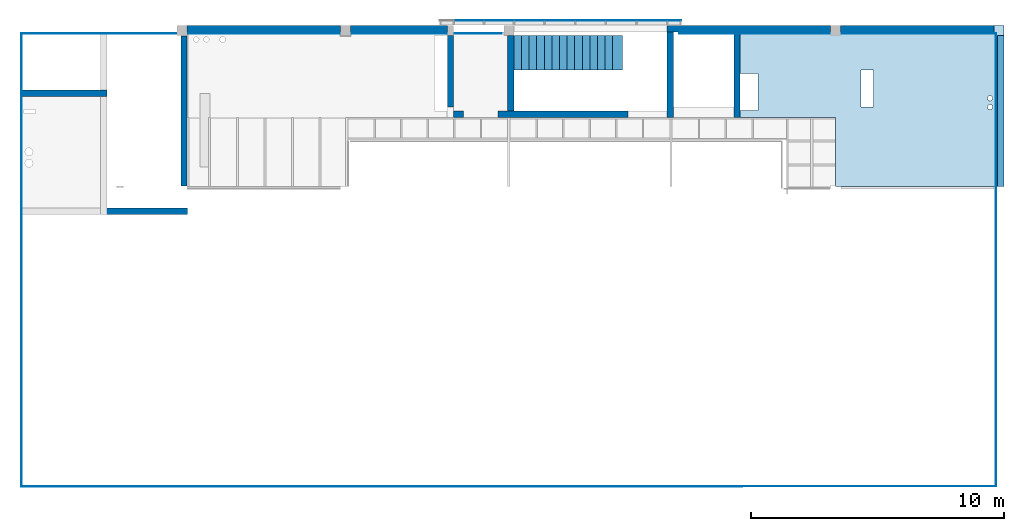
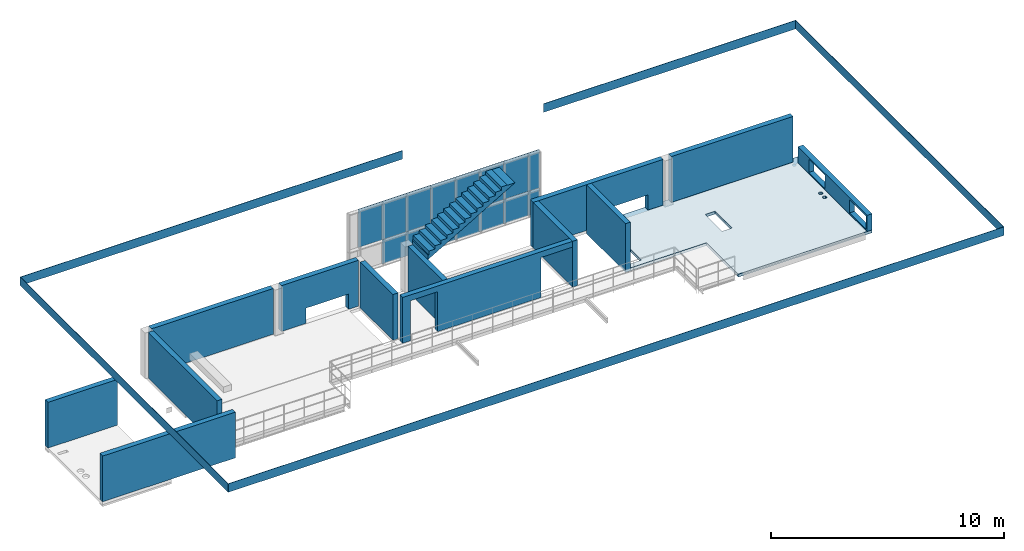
# One storey, part 6 of 8: 18 walls, 15 plates, 1 slab, 1 stair, 10 openings, 2 elements without a shape of their own.
"""IFC2X3 building model written with IfcOpenShell, lengths in centimetres."""

from ifc_helpers import new_model, entity, si_unit, converted_unit, derived_unit, direction, frame, frame_2d, origin, origin_2d_with_axis, place, context, subcontext, project, spatial, polyline, rectangle, circle, outline, extrude, source, transform, mapped, material, layer, layer_set, layer_usage, type_object, type_shapes, element, aggregate, save


model = new_model("IFC2X3")

# Units and contexts
model_context = context("Model", 3, precision=0.001, world=origin(), true_north=direction((6.12303176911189e-17, 1.0)))
body_context = subcontext(model_context, "Body", "Model", "MODEL_VIEW")
ifc_project = project(units=[si_unit("LENGTHUNIT", "METRE", prefix="CENTI"), si_unit("AREAUNIT", "SQUARE_METRE"), si_unit("VOLUMEUNIT", "CUBIC_METRE"), converted_unit("PLANEANGLEUNIT", "DEGREE", entity("IfcRatioMeasure", 0.0174532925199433), si_unit("PLANEANGLEUNIT", "RADIAN"), dimensions=[0, 0, 0, 0, 0, 0, 0]), si_unit("MASSUNIT", "GRAM", prefix="KILO"), derived_unit("MASSDENSITYUNIT", [(si_unit("MASSUNIT", "GRAM", prefix="KILO"), 1), (si_unit("LENGTHUNIT", "METRE"), -3)]), derived_unit("MOMENTOFINERTIAUNIT", [(si_unit("LENGTHUNIT", "METRE"), 4)]), si_unit("TIMEUNIT", "SECOND"), si_unit("FREQUENCYUNIT", "HERTZ"), si_unit("THERMODYNAMICTEMPERATUREUNIT", "DEGREE_CELSIUS"), derived_unit("THERMALTRANSMITTANCEUNIT", [(si_unit("MASSUNIT", "GRAM", prefix="KILO"), 1), (si_unit("THERMODYNAMICTEMPERATUREUNIT", "KELVIN"), -1), (si_unit("TIMEUNIT", "SECOND"), -3)]), derived_unit("VOLUMETRICFLOWRATEUNIT", [(si_unit("LENGTHUNIT", "METRE"), 3), (si_unit("TIMEUNIT", "SECOND"), -1)]), si_unit("ELECTRICCURRENTUNIT", "AMPERE"), si_unit("ELECTRICVOLTAGEUNIT", "VOLT"), si_unit("POWERUNIT", "WATT"), si_unit("FORCEUNIT", "NEWTON", prefix="KILO"), si_unit("ILLUMINANCEUNIT", "LUX"), si_unit("LUMINOUSFLUXUNIT", "LUMEN"), si_unit("LUMINOUSINTENSITYUNIT", "CANDELA"), derived_unit("USERDEFINED", [(si_unit("MASSUNIT", "GRAM", prefix="KILO"), -1), (si_unit("LENGTHUNIT", "METRE"), -2), (si_unit("TIMEUNIT", "SECOND"), 3), (si_unit("LUMINOUSFLUXUNIT", "LUMEN"), 1)]), derived_unit("LINEARVELOCITYUNIT", [(si_unit("LENGTHUNIT", "METRE"), 1), (si_unit("TIMEUNIT", "SECOND"), -1)]), si_unit("PRESSUREUNIT", "PASCAL"), derived_unit("USERDEFINED", [(si_unit("LENGTHUNIT", "METRE"), -2), (si_unit("MASSUNIT", "GRAM", prefix="KILO"), 1), (si_unit("TIMEUNIT", "SECOND"), -2)]), derived_unit("LINEARFORCEUNIT", [(si_unit("MASSUNIT", "GRAM", prefix="KILO"), 1), (si_unit("LENGTHUNIT", "METRE"), 1), (si_unit("TIMEUNIT", "SECOND"), -2), (si_unit("LENGTHUNIT", "METRE"), -1)]), derived_unit("PLANARFORCEUNIT", [(si_unit("MASSUNIT", "GRAM", prefix="KILO"), 1), (si_unit("LENGTHUNIT", "METRE"), 1), (si_unit("TIMEUNIT", "SECOND"), -2), (si_unit("LENGTHUNIT", "METRE"), -2)])], contexts=[model_context])

# Site, building, storey
site_placement = place(None, origin())
site = spatial("IfcSite", under=ifc_project, at=site_placement, Name="Default", CompositionType="ELEMENT")
building_placement = place(site_placement, origin())
building = spatial("IfcBuilding", under=site, at=building_placement, CompositionType="ELEMENT")
storey_placement = place(building_placement, frame((0.0, 0.0, 290.0)))
storey = spatial("IfcBuildingStorey", under=building, at=storey_placement, Name="Poziom Antresola +2,90", CompositionType="ELEMENT", Elevation=290.0)

# Slab, openings
ifc_material_1 = material(Name="_Beton, C25/30")
ifc_layer_1 = layer(ifc_material_1, 15.0)
ifc_layer_set_1 = layer_set([ifc_layer_1], Name="Strop:Strop żebetowy gr. 15cm")
ifc_layer_usage_1 = layer_usage(ifc_layer_set_1, "AXIS3", "POSITIVE", 0.0)
slab_type = type_object("IfcSlabType", Name="Strop:Strop żebetowy gr. 15cm", PredefinedType="FLOOR", material=ifc_layer_set_1)
slab_placement = place(storey_placement, frame((-65.7649889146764, 1470.12745194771, -15.0)))
slab = element("IfcSlab", 1, at=slab_placement, inside=storey, type_object=slab_type, material=ifc_layer_usage_1, Name="Strop:Strop żebetowy gr. 15cm", ObjectType="Strop:Strop żebetowy gr. 15cm", PredefinedType="FLOOR", context=body_context, shape_type="SweptSolid", body=[
    extrude(outline(polyline([(520.749941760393, 317.500000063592), (-520.749941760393, 317.500000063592), (-520.749941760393, -317.500000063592), (144.250061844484, -317.50000006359), (144.250061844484, -44.500000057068), (520.749941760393, -44.5000000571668), (520.749941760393, -17.5002920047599), (450.750060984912, -17.5002920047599), (450.750060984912, 127.500000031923), (520.749941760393, 127.500000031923), (520.749941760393, 317.500000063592)])), frame((520.749941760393, 317.500000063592, 15.0), z_axis=(0.0, 0.0, -1.0), x_axis=(-1.0, 0.0, 0.0)), (0.0, 0.0, 1.0), 15.0),
])
opening_1_placement = place(slab_placement, frame((501.999855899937, 386.282516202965, 15.0)))
element("IfcOpeningElement", 2, at=opening_1_placement, cuts=slab, Name="Strop:Strop żebetowy gr. 15cm:2", ObjectType="Opening", context=body_context, shape_type="SweptSolid", body=[
    extrude(rectangle(XDim=145.43555127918, YDim=50.0000240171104, at=origin_2d_with_axis()), frame((0.0, 0.0, 0.0), z_axis=(0.0, 0.0, -1.0), x_axis=(0.0, -1.0, 0.0)), (0.0, 0.0, 1.0), 15.0),
])
opening_2_placement = place(slab_placement, frame((986.499719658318, 347.999997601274, 15.0)))
element("IfcOpeningElement", 3, at=opening_2_placement, cuts=slab, Name="Strop:Strop żebetowy gr. 15cm:3", ObjectType="Opening", context=body_context, shape_type="SweptSolid", body=[
    extrude(circle(Radius=9.99999999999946, at=origin_2d_with_axis()), frame((0.0, 0.0, 0.0), z_axis=(0.0, 0.0, -1.0), x_axis=(1.0, 0.0, 0.0)), (0.0, 0.0, 1.0), 15.0),
])
opening_3_placement = place(slab_placement, frame((986.499719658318, 312.999997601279, 15.0)))
element("IfcOpeningElement", 4, at=opening_3_placement, cuts=slab, Name="Strop:Strop żebetowy gr. 15cm:4", ObjectType="Opening", context=body_context, shape_type="SweptSolid", body=[
    extrude(circle(Radius=9.99999999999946, at=origin_2d_with_axis()), frame((0.0, 0.0, 0.0), z_axis=(0.0, 0.0, -1.0), x_axis=(1.0, 0.0, 0.0)), (0.0, 0.0, 1.0), 15.0),
])

# Curtain wall, plates
curtain_wall_type = type_object("IfcCurtainWallType", Name="Ściana osłonowa:SO2", PredefinedType="NOTDEFINED")
curtain_wall_placement = place(storey_placement, frame((0.0, 0.0, -290.0)))
curtain_wall = element("IfcCurtainWall", 5, at=curtain_wall_placement, inside=storey, type_object=curtain_wall_type, Name="Ściana osłonowa:SO2", ObjectType="Ściana osłonowa:SO2")
ifc_material_2 = material(Name="Domyślny")
plate_type_1 = type_object("IfcPlateType", Name="Panel systemowy:Bryła", PredefinedType="CURTAIN_PANEL", material=ifc_material_2)
shared_shape_1 = source(origin(), body_context, "Body", "SweptSolid", [
    extrude(rectangle(XDim=2.0, YDim=56.0, at=frame_2d((-8.88178419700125e-16, 0.0), x_axis=(1.0, 0.0))), frame((0.0, 9.75, 0.0), z_axis=(0.0, 0.0, 1.0), x_axis=(0.0, 1.0, 0.0)), (0.0, 0.0, 1.0), 127.5),
])
type_shapes(plate_type_1, [shared_shape_1])
plate_1_placement = place(curtain_wall_placement, frame((-326.265132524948, 2116.37745208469, 432.499988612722)))
plate_1 = element("IfcPlate", 6, at=plate_1_placement, type_object=plate_type_1, material=ifc_material_2, Name="Panel systemowy:Bryła", ObjectType="Panel systemowy:Bryła", context=body_context, shape_type="MappedRepresentation", body=[
    mapped(shared_shape_1, transform((0.0, 0.0, 0.0), scale=1.0)),
])
ifc_material_3 = material(Name="Szkło")
plate_type_2 = type_object("IfcPlateType", Name="Panel systemowy:Przeszklony - System strukturalny", PredefinedType="CURTAIN_PANEL", material=ifc_material_3)
shared_shape_2 = source(origin(), body_context, "Body", "SweptSolid", [
    extrude(rectangle(XDim=2.0, YDim=118.499982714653, at=frame_2d((-8.88178419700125e-16, 0.0), x_axis=(1.0, 0.0))), frame((0.0, 9.75, 0.0), z_axis=(0.0, 0.0, 1.0), x_axis=(0.0, 1.0, 0.0)), (0.0, 0.0, 1.0), 127.5),
])
type_shapes(plate_type_2, [shared_shape_2])
plate_2_placement = place(curtain_wall_placement, frame((-1018.51512388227, 2116.37745208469, 432.499988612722)))
plate_2 = element("IfcPlate", 7, at=plate_2_placement, type_object=plate_type_2, material=ifc_material_3, Name="Panel systemowy:Przeszklony - System strukturalny", ObjectType="Panel systemowy:Przeszklony - System strukturalny", context=body_context, shape_type="MappedRepresentation", body=[
    mapped(shared_shape_2, transform((0.0, 0.0, 0.0), scale=1.0)),
])
plate_type_3 = type_object("IfcPlateType", Name="Panel systemowy:Przeszklony - System strukturalny", PredefinedType="CURTAIN_PANEL", material=ifc_material_3)
shared_shape_3 = source(origin(), body_context, "Body", "SweptSolid", [
    extrude(rectangle(XDim=2.0, YDim=121.0, at=frame_2d((-8.88178419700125e-16, 0.0), x_axis=(1.0, 0.0))), frame((0.0, 9.75, 0.0), z_axis=(0.0, 0.0, 1.0), x_axis=(0.0, 1.0, 0.0)), (0.0, 0.0, 1.0), 127.5),
])
type_shapes(plate_type_3, [shared_shape_3])
plate_3_placement = place(curtain_wall_placement, frame((-898.765132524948, 2116.37745208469, 432.499988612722)))
plate_3 = element("IfcPlate", 8, at=plate_3_placement, type_object=plate_type_3, material=ifc_material_3, Name="Panel systemowy:Przeszklony - System strukturalny", ObjectType="Panel systemowy:Przeszklony - System strukturalny", context=body_context, shape_type="MappedRepresentation", body=[
    mapped(shared_shape_3, transform((0.0, 0.0, 0.0), scale=1.0)),
])
plate_4_placement = place(curtain_wall_placement, frame((-777.765132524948, 2116.37745208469, 432.499988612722)))
plate_4 = element("IfcPlate", 9, at=plate_4_placement, type_object=plate_type_3, material=ifc_material_3, Name="Panel systemowy:Przeszklony - System strukturalny", ObjectType="Panel systemowy:Przeszklony - System strukturalny", context=body_context, shape_type="MappedRepresentation", body=[
    mapped(shared_shape_3, transform((0.0, 0.0, 0.0), scale=1.0)),
])
plate_5_placement = place(curtain_wall_placement, frame((-656.765132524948, 2116.37745208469, 432.499988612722)))
plate_5 = element("IfcPlate", 10, at=plate_5_placement, type_object=plate_type_3, material=ifc_material_3, Name="Panel systemowy:Przeszklony - System strukturalny", ObjectType="Panel systemowy:Przeszklony - System strukturalny", context=body_context, shape_type="MappedRepresentation", body=[
    mapped(shared_shape_3, transform((0.0, 0.0, 0.0), scale=1.0)),
])
plate_6_placement = place(curtain_wall_placement, frame((-535.765132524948, 2116.37745208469, 432.499988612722)))
plate_6 = element("IfcPlate", 11, at=plate_6_placement, type_object=plate_type_3, material=ifc_material_3, Name="Panel systemowy:Przeszklony - System strukturalny", ObjectType="Panel systemowy:Przeszklony - System strukturalny", context=body_context, shape_type="MappedRepresentation", body=[
    mapped(shared_shape_3, transform((0.0, 0.0, 0.0), scale=1.0)),
])
plate_7_placement = place(curtain_wall_placement, frame((-414.765132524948, 2116.37745208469, 432.499988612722)))
plate_7 = element("IfcPlate", 12, at=plate_7_placement, type_object=plate_type_3, material=ifc_material_3, Name="Panel systemowy:Przeszklony - System strukturalny", ObjectType="Panel systemowy:Przeszklony - System strukturalny", context=body_context, shape_type="MappedRepresentation", body=[
    mapped(shared_shape_3, transform((0.0, 0.0, 0.0), scale=1.0)),
])
plate_type_4 = type_object("IfcPlateType", Name="Panel systemowy:Bryła", PredefinedType="CURTAIN_PANEL", material=ifc_material_2)
shared_shape_4 = source(origin(), body_context, "Body", "SweptSolid", [
    extrude(rectangle(XDim=2.0, YDim=56.0, at=frame_2d((-8.88178419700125e-16, 0.0), x_axis=(1.0, 0.0))), frame((0.0, 9.74999999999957, 0.0), z_axis=(0.0, 0.0, 1.0), x_axis=(0.0, 1.0, 0.0)), (0.0, 0.0, 1.0), 201.000011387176),
])
type_shapes(plate_type_4, [shared_shape_4])
plate_8_placement = place(curtain_wall_placement, frame((-326.265132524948, 2116.37745208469, 559.999988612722)))
plate_8 = element("IfcPlate", 13, at=plate_8_placement, type_object=plate_type_4, material=ifc_material_2, Name="Panel systemowy:Bryła", ObjectType="Panel systemowy:Bryła", context=body_context, shape_type="MappedRepresentation", body=[
    mapped(shared_shape_4, transform((0.0, 0.0, 0.0), scale=1.0)),
])
plate_type_5 = type_object("IfcPlateType", Name="Panel systemowy:Przeszklony - System strukturalny", PredefinedType="CURTAIN_PANEL", material=ifc_material_3)
shared_shape_5 = source(origin(), body_context, "Body", "SweptSolid", [
    extrude(rectangle(XDim=2.0, YDim=119.0, at=frame_2d((-8.88178419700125e-16, 0.0), x_axis=(1.0, 0.0))), frame((0.0, 9.75, 0.0), z_axis=(0.0, 0.0, 1.0), x_axis=(0.0, 1.0, 0.0)), (0.0, 0.0, 1.0), 201.000011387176),
])
type_shapes(plate_type_5, [shared_shape_5])
plate_9_placement = place(curtain_wall_placement, frame((-1137.2651152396, 2116.37745208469, 559.999988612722)))
plate_9 = element("IfcPlate", 14, at=plate_9_placement, type_object=plate_type_5, material=ifc_material_3, Name="Panel systemowy:Przeszklony - System strukturalny", ObjectType="Panel systemowy:Przeszklony - System strukturalny", context=body_context, shape_type="MappedRepresentation", body=[
    mapped(shared_shape_5, transform((0.0, 0.0, 0.0), scale=1.0)),
])
plate_type_6 = type_object("IfcPlateType", Name="Panel systemowy:Przeszklony - System strukturalny", PredefinedType="CURTAIN_PANEL", material=ifc_material_3)
shared_shape_6 = source(origin(), body_context, "Body", "SweptSolid", [
    extrude(rectangle(XDim=2.0, YDim=118.499982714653, at=frame_2d((-8.88178419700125e-16, 0.0), x_axis=(1.0, 0.0))), frame((0.0, 9.75, 0.0), z_axis=(0.0, 0.0, 1.0), x_axis=(0.0, 1.0, 0.0)), (0.0, 0.0, 1.0), 201.000011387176),
])
type_shapes(plate_type_6, [shared_shape_6])
plate_10_placement = place(curtain_wall_placement, frame((-1018.51512388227, 2116.37745208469, 559.999988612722)))
plate_10 = element("IfcPlate", 15, at=plate_10_placement, type_object=plate_type_6, material=ifc_material_3, Name="Panel systemowy:Przeszklony - System strukturalny", ObjectType="Panel systemowy:Przeszklony - System strukturalny", context=body_context, shape_type="MappedRepresentation", body=[
    mapped(shared_shape_6, transform((0.0, 0.0, 0.0), scale=1.0)),
])
plate_type_7 = type_object("IfcPlateType", Name="Panel systemowy:Przeszklony - System strukturalny", PredefinedType="CURTAIN_PANEL", material=ifc_material_3)
shared_shape_7 = source(origin(), body_context, "Body", "SweptSolid", [
    extrude(rectangle(XDim=2.0, YDim=121.0, at=frame_2d((-8.88178419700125e-16, 0.0), x_axis=(1.0, 0.0))), frame((0.0, 9.75000000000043, 0.0), z_axis=(0.0, 0.0, 1.0), x_axis=(0.0, 1.0, 0.0)), (0.0, 0.0, 1.0), 201.000011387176),
])
type_shapes(plate_type_7, [shared_shape_7])
plate_11_placement = place(curtain_wall_placement, frame((-898.765132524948, 2116.37745208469, 559.999988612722)))
plate_11 = element("IfcPlate", 16, at=plate_11_placement, type_object=plate_type_7, material=ifc_material_3, Name="Panel systemowy:Przeszklony - System strukturalny", ObjectType="Panel systemowy:Przeszklony - System strukturalny", context=body_context, shape_type="MappedRepresentation", body=[
    mapped(shared_shape_7, transform((0.0, 0.0, 0.0), scale=1.0)),
])
plate_12_placement = place(curtain_wall_placement, frame((-777.765132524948, 2116.37745208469, 559.999988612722)))
plate_12 = element("IfcPlate", 17, at=plate_12_placement, type_object=plate_type_7, material=ifc_material_3, Name="Panel systemowy:Przeszklony - System strukturalny", ObjectType="Panel systemowy:Przeszklony - System strukturalny", context=body_context, shape_type="MappedRepresentation", body=[
    mapped(shared_shape_7, transform((0.0, 0.0, 0.0), scale=1.0)),
])
plate_13_placement = place(curtain_wall_placement, frame((-656.765132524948, 2116.37745208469, 559.999988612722)))
plate_13 = element("IfcPlate", 18, at=plate_13_placement, type_object=plate_type_7, material=ifc_material_3, Name="Panel systemowy:Przeszklony - System strukturalny", ObjectType="Panel systemowy:Przeszklony - System strukturalny", context=body_context, shape_type="MappedRepresentation", body=[
    mapped(shared_shape_7, transform((0.0, 0.0, 0.0), scale=1.0)),
])
plate_14_placement = place(curtain_wall_placement, frame((-535.765132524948, 2116.37745208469, 559.999988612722)))
plate_14 = element("IfcPlate", 19, at=plate_14_placement, type_object=plate_type_7, material=ifc_material_3, Name="Panel systemowy:Przeszklony - System strukturalny", ObjectType="Panel systemowy:Przeszklony - System strukturalny", context=body_context, shape_type="MappedRepresentation", body=[
    mapped(shared_shape_7, transform((0.0, 0.0, 0.0), scale=1.0)),
])
plate_15_placement = place(curtain_wall_placement, frame((-414.765132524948, 2116.37745208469, 559.999988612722)))
plate_15 = element("IfcPlate", 20, at=plate_15_placement, type_object=plate_type_7, material=ifc_material_3, Name="Panel systemowy:Przeszklony - System strukturalny", ObjectType="Panel systemowy:Przeszklony - System strukturalny", context=body_context, shape_type="MappedRepresentation", body=[
    mapped(shared_shape_7, transform((0.0, 0.0, 0.0), scale=1.0)),
])
aggregate(curtain_wall, [plate_2, plate_3, plate_4, plate_5, plate_6, plate_7, plate_1, plate_9, plate_10, plate_11, plate_12, plate_13, plate_14, plate_15, plate_8])

# Wall, openings
ifc_material_4 = material(Name="_Beton C30/37")
ifc_layer_2 = layer(ifc_material_4, 25.0)
ifc_layer_set_2 = layer_set([ifc_layer_2], Name="Ściana podstawowa:Ściana żelbetowa gr. 25cm")
ifc_layer_usage_2 = layer_usage(ifc_layer_set_2, "AXIS2", "NEGATIVE", 12.5)
wall_type_1 = type_object("IfcWallType", Name="Ściana podstawowa:Ściana żelbetowa gr. 25cm", PredefinedType="STANDARD", material=ifc_layer_set_2)
wall_1_placement = place(storey_placement, frame((963.234894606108, 1470.12745208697, 0.0), z_axis=(0.0, 0.0, 1.0), x_axis=(0.0, 1.0, 0.0)))
wall_1 = element("IfcWallStandardCase", 21, at=wall_1_placement, inside=storey, type_object=wall_type_1, material=ifc_layer_usage_2, Name="Ściana podstawowa:Ściana żelbetowa gr. 25cm", ObjectType="Ściana podstawowa:Ściana żelbetowa gr. 25cm", context=body_context, shape_type="SweptSolid", body=[
    extrude(rectangle(XDim=594.999999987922, YDim=24.9999999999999, at=frame_2d((297.499999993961, -1.25233157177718e-13), x_axis=(-1.0, 0.0))), origin(), (0.0, 0.0, 1.0), 84.9999999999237),
])
opening_4_placement = place(wall_1_placement, origin())
element("IfcOpeningElement", 22, at=opening_4_placement, cuts=wall_1, Name="Ściana podstawowa:Ściana żelbetowa gr. 25cm", ObjectType="Opening", context=body_context, shape_type="SweptSolid", body=[
    extrude(rectangle(XDim=70.0, YDim=140.0, at=frame_2d((-1.06581410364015e-13, 0.0), x_axis=(0.0, 1.0))), frame((82.0, -164.9, 40.4500000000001), z_axis=(0.0, 1.0, 0.0), x_axis=(1.0, 0.0, 0.0)), (0.0, 0.0, 1.0), 304.8),
])
opening_5_placement = place(wall_1_placement, origin())
element("IfcOpeningElement", 23, at=opening_5_placement, cuts=wall_1, Name="Ściana podstawowa:Ściana żelbetowa gr. 25cm", ObjectType="Opening", context=body_context, shape_type="SweptSolid", body=[
    extrude(rectangle(XDim=70.0, YDim=140.0, at=frame_2d((1.06581410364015e-13, 0.0), x_axis=(0.0, 1.0))), frame((431.999998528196, -164.9, 40.4500000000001), z_axis=(0.0, 1.0, 0.0), x_axis=(1.0, 0.0, 0.0)), (0.0, 0.0, 1.0), 304.8),
])

# Wall, opening
ifc_layer_usage_3 = layer_usage(ifc_layer_set_2, "AXIS2", "NEGATIVE", 12.5)
wall_2_placement = place(storey_placement, frame((-354.265111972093, 2092.62745061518, 0.0)))
wall_2 = element("IfcWallStandardCase", 24, at=wall_2_placement, inside=storey, type_object=wall_type_1, material=ifc_layer_usage_3, Name="Ściana podstawowa:Ściana żelbetowa gr. 25cm", ObjectType="Ściana podstawowa:Ściana żelbetowa gr. 25cm", context=body_context, shape_type="SweptSolid", body=[
    extrude(rectangle(XDim=645.000001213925, YDim=25.0000000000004, at=frame_2d((322.500000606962, -3.5527136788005e-14), x_axis=(-1.0, 0.0))), origin(), (0.0, 0.0, 1.0), 239.999999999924),
])
opening_6_placement = place(wall_2_placement, origin())
element("IfcOpeningElement", 25, at=opening_6_placement, cuts=wall_2, Name="Ściana podstawowa:Ściana żelbetowa gr. 25cm", ObjectType="Opening", context=body_context, shape_type="SweptSolid", body=[
    extrude(rectangle(XDim=80.0, YDim=270.0, at=origin_2d_with_axis()), frame((433.500005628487, -139.899999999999, 40.0), z_axis=(0.0, 1.0, 0.0), x_axis=(0.0, 0.0, -1.0)), (0.0, 0.0, 1.0), 304.8),
])

# Walls
ifc_layer_usage_4 = layer_usage(ifc_layer_set_2, "AXIS2", "NEGATIVE", 12.5)
wall_3_placement = place(storey_placement, frame((330.734889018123, 2092.62745061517, 0.0)))
element("IfcWallStandardCase", 26, at=wall_3_placement, inside=storey, type_object=wall_type_1, material=ifc_layer_usage_4, Name="Ściana podstawowa:Ściana żelbetowa gr. 25cm", ObjectType="Ściana podstawowa:Ściana żelbetowa gr. 25cm", context=body_context, shape_type="SweptSolid", body=[
    extrude(rectangle(XDim=605.000004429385, YDim=25.0000000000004, at=frame_2d((302.500002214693, 0.0), x_axis=(-1.0, 0.0))), origin(), (0.0, 0.0, 1.0), 239.999999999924),
])
ifc_layer_usage_5 = layer_usage(ifc_layer_set_2, "AXIS2", "NEGATIVE", 12.5)
wall_4_placement = place(storey_placement, frame((-2249.26510655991, 2092.62745206, 0.0)))
element("IfcWallStandardCase", 27, at=wall_4_placement, inside=storey, type_object=wall_type_1, material=ifc_layer_usage_5, Name="Ściana podstawowa:Ściana żelbetowa gr. 25cm", ObjectType="Ściana podstawowa:Ściana żelbetowa gr. 25cm", context=body_context, shape_type="SweptSolid", body=[
    extrude(rectangle(XDim=605.000000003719, YDim=25.0000000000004, at=frame_2d((302.50000000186, 3.5527136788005e-15), x_axis=(-1.0, 0.0))), origin(), (0.0, 0.0, 1.0), 239.999999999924),
])

# Wall, opening
ifc_layer_usage_6 = layer_usage(ifc_layer_set_2, "AXIS2", "NEGATIVE", 12.5)
wall_5_placement = place(storey_placement, frame((-1604.26512211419, 2092.62745206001, 0.0)))
wall_5 = element("IfcWallStandardCase", 28, at=wall_5_placement, inside=storey, type_object=wall_type_1, material=ifc_layer_usage_6, Name="Ściana podstawowa:Ściana żelbetowa gr. 25cm", ObjectType="Ściana podstawowa:Ściana żelbetowa gr. 25cm", context=body_context, shape_type="SweptSolid", body=[
    extrude(rectangle(XDim=382.500025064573, YDim=25.0000000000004, at=frame_2d((191.250012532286, 0.0), x_axis=(-1.0, 0.0))), origin(), (0.0, 0.0, 1.0), 239.999999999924),
])
opening_7_placement = place(wall_5_placement, origin())
element("IfcOpeningElement", 29, at=opening_7_placement, cuts=wall_5, Name="Ściana podstawowa:Ściana żelbetowa gr. 25cm", ObjectType="Opening", context=body_context, shape_type="SweptSolid", body=[
    extrude(rectangle(XDim=80.0, YDim=210.0, at=origin_2d_with_axis()), frame((228.50002506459, -139.9, 40.0), z_axis=(0.0, 1.0, 0.0), x_axis=(0.0, 0.0, -1.0)), (0.0, 0.0, 1.0), 304.8),
])

# Wall
ifc_layer_usage_7 = layer_usage(ifc_layer_set_2, "AXIS2", "POSITIVE", -12.5)
wall_6_placement = place(storey_placement, frame((-78.2649889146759, 2080.12745061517, -15.0), z_axis=(0.0, 0.0, 1.0), x_axis=(0.0, -1.0, 0.0)))
element("IfcWallStandardCase", 30, at=wall_6_placement, inside=storey, type_object=wall_type_1, material=ifc_layer_usage_7, Name="Ściana podstawowa:Ściana żelbetowa gr. 25cm", ObjectType="Ściana podstawowa:Ściana żelbetowa gr. 25cm", context=body_context, shape_type="SweptSolid", body=[
    extrude(rectangle(XDim=337.000019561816, YDim=25.0, at=frame_2d((168.500009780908, -1.77635683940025e-15), x_axis=(-1.0, 0.0))), origin(), (0.0, 0.0, 1.0), 254.999999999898),
])

# Wall, opening
ifc_layer_usage_8 = layer_usage(ifc_layer_set_2, "AXIS2", "NEGATIVE", 12.5)
wall_7_placement = place(storey_placement, frame((-341.765111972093, 1742.6274520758, 0.0), z_axis=(0.0, 0.0, 1.0), x_axis=(0.0, 1.0, 0.0)))
wall_7 = element("IfcWallStandardCase", 31, at=wall_7_placement, inside=storey, type_object=wall_type_1, material=ifc_layer_usage_8, Name="Ściana podstawowa:Ściana żelbetowa gr. 25cm", ObjectType="Ściana podstawowa:Ściana żelbetowa gr. 25cm", context=body_context, shape_type="SweptSolid", body=[
    extrude(rectangle(XDim=337.499998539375, YDim=24.9999999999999, at=frame_2d((168.749999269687, 0.0), x_axis=(-1.0, 0.0))), origin(), (0.0, 0.0, 1.0), 239.999999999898),
])
opening_8_placement = place(wall_7_placement, origin())
element("IfcOpeningElement", 32, at=opening_8_placement, cuts=wall_7, Name="Ściana podstawowa:Ściana żelbetowa gr. 25cm", ObjectType="Opening", context=body_context, shape_type="SweptSolid", body=[
    extrude(rectangle(XDim=210.0, YDim=24.9999999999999, at=frame_2d((2.16715534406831e-13, 0.0), x_axis=(0.0, 1.0))), frame((13.0, 12.4999999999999, 105.0), z_axis=(0.0, 1.0, 0.0), x_axis=(-1.0, 0.0, 0.0)), (0.0, 0.0, 1.0), 155.0),
])

# Wall, openings
ifc_layer_usage_9 = layer_usage(ifc_layer_set_2, "AXIS2", "NEGATIVE", 12.5)
wall_8_placement = place(storey_placement, frame((-1196.76508927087, 1755.6274520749, 0.0)))
wall_8 = element("IfcWallStandardCase", 33, at=wall_8_placement, inside=storey, type_object=wall_type_1, material=ifc_layer_usage_9, Name="Ściana podstawowa:Ściana żelbetowa gr. 25cm", ObjectType="Ściana podstawowa:Ściana żelbetowa gr. 25cm", context=body_context, shape_type="SweptSolid", body=[
    extrude(rectangle(XDim=842.499977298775, YDim=24.9999999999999, at=frame_2d((421.249988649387, 4.44089209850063e-15), x_axis=(-1.0, 0.0))), origin(), (0.0, 0.0, 1.0), 239.999999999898),
])
opening_9_placement = place(wall_8_placement, origin())
element("IfcOpeningElement", 34, at=opening_9_placement, cuts=wall_8, Name="Ściana podstawowa:Ściana żelbetowa gr. 25cm", ObjectType="Opening", context=body_context, shape_type="SweptSolid", body=[
    extrude(rectangle(XDim=210.0, YDim=135.0, at=frame_2d((-2.8421709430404e-14, 0.0), x_axis=(1.0, 0.0))), frame((106.250007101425, -139.9, 105.0), z_axis=(0.0, 1.0, 0.0), x_axis=(0.0, 0.0, -1.0)), (0.0, 0.0, 1.0), 304.8),
])
opening_10_placement = place(wall_8_placement, origin())
element("IfcOpeningElement", 35, at=opening_10_placement, cuts=wall_8, Name="Ściana podstawowa:Ściana żelbetowa gr. 25cm", ObjectType="Opening", context=body_context, shape_type="SweptSolid", body=[
    extrude(rectangle(XDim=210.0, YDim=155.0, at=frame_2d((-2.1316282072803e-14, 5.6843418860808e-14), x_axis=(1.0, 0.0))), frame((764.999977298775, -139.9, 105.0), z_axis=(0.0, 1.0, 0.0), x_axis=(0.0, 0.0, -1.0)), (0.0, 0.0, 1.0), 304.8),
])

# Walls
ifc_layer_usage_10 = layer_usage(ifc_layer_set_2, "AXIS2", "NEGATIVE", 12.5)
wall_9_placement = place(storey_placement, frame((-1209.26508927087, 2065.12745200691, 0.0), z_axis=(0.0, 0.0, 1.0), x_axis=(0.0, -1.0, 0.0)))
element("IfcWallStandardCase", 36, at=wall_9_placement, inside=storey, type_object=wall_type_1, material=ifc_layer_usage_10, Name="Ściana podstawowa:Ściana żelbetowa gr. 25cm", ObjectType="Ściana podstawowa:Ściana żelbetowa gr. 25cm", context=body_context, shape_type="SweptSolid", body=[
    extrude(rectangle(XDim=282.0, YDim=24.9999999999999, at=frame_2d((141.0, 0.0), x_axis=(-1.0, 0.0))), origin(), (0.0, 0.0, 1.0), 239.999999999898),
])
ifc_layer_usage_11 = layer_usage(ifc_layer_set_2, "AXIS2", "NEGATIVE", 12.5)
wall_10_placement = place(storey_placement, frame((-971.765108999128, 2065.1274520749, 0.0), z_axis=(0.0, 0.0, 1.0), x_axis=(0.0, -1.0, 0.0)))
element("IfcWallStandardCase", 37, at=wall_10_placement, inside=storey, type_object=wall_type_1, material=ifc_layer_usage_11, Name="Ściana podstawowa:Ściana żelbetowa gr. 25cm", ObjectType="Ściana podstawowa:Ściana żelbetowa gr. 25cm", context=body_context, shape_type="SweptSolid", body=[
    extrude(rectangle(XDim=297.0, YDim=24.9999999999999, at=frame_2d((148.5, 0.0), x_axis=(-1.0, 0.0))), origin(), (0.0, 0.0, 1.0), 239.999999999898),
])
ifc_material_5 = material(Name="Pustak ceramiczny, klasa 15")
ifc_layer_3 = layer(ifc_material_5, 25.0)
ifc_layer_set_3 = layer_set([ifc_layer_3], Name="Ściana podstawowa:Ściana murowana gr. 25cm")
ifc_layer_usage_12 = layer_usage(ifc_layer_set_3, "AXIS2", "POSITIVE", -12.5)
wall_type_2 = type_object("IfcWallType", Name="Ściana podstawowa:Ściana murowana gr. 25cm", PredefinedType="STANDARD", material=ifc_layer_set_3)
wall_11_placement = place(storey_placement, frame((-2248.01511972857, 1371.62745234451, 0.0), z_axis=(0.0, 0.0, 1.0), x_axis=(-1.0, 0.0, 0.0)))
element("IfcWallStandardCase", 38, at=wall_11_placement, inside=storey, type_object=wall_type_2, material=ifc_layer_usage_12, Name="Ściana podstawowa:Ściana murowana gr. 25cm", ObjectType="Ściana podstawowa:Ściana murowana gr. 25cm", context=body_context, shape_type="SweptSolid", body=[
    extrude(rectangle(XDim=659.249986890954, YDim=24.9999999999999, at=frame_2d((329.624993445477, 1.77635683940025e-15), x_axis=(-1.0, 0.0))), origin(), (0.0, 0.0, 1.0), 239.999999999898),
])
ifc_layer_usage_13 = layer_usage(ifc_layer_set_3, "AXIS2", "NEGATIVE", 12.5)
wall_12_placement = place(storey_placement, frame((-2565.76511650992, 1837.6715304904, 0.0), z_axis=(0.0, 0.0, 1.0), x_axis=(-1.0, 0.0, 0.0)))
element("IfcWallStandardCase", 39, at=wall_12_placement, inside=storey, type_object=wall_type_2, material=ifc_layer_usage_13, Name="Ściana podstawowa:Ściana murowana gr. 25cm", ObjectType="Ściana podstawowa:Ściana murowana gr. 25cm", context=body_context, shape_type="SweptSolid", body=[
    extrude(rectangle(XDim=343.499988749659, YDim=24.9999999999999, at=frame_2d((171.749994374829, -1.86517468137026e-14), x_axis=(-1.0, 0.0))), origin(), (0.0, 0.0, 1.0), 239.999999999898),
])
ifc_layer_usage_14 = layer_usage(ifc_layer_set_3, "AXIS2", "NEGATIVE", 12.5)
wall_13_placement = place(storey_placement, frame((-2261.77270393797, 1471.37745210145, 0.0), z_axis=(0.0, 0.0, 1.0), x_axis=(0.0, 1.0, 0.0)))
element("IfcWallStandardCase", 40, at=wall_13_placement, inside=storey, type_object=wall_type_2, material=ifc_layer_usage_14, Name="Ściana podstawowa:Ściana murowana gr. 25cm", ObjectType="Ściana podstawowa:Ściana murowana gr. 25cm", context=body_context, shape_type="SweptSolid", body=[
    extrude(rectangle(XDim=592.499999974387, YDim=25.0000000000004, at=frame_2d((296.249999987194, -8.88178419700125e-16), x_axis=(-1.0, 0.0))), origin(), (0.0, 0.0, 1.0), 239.999999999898),
])
ifc_material_6 = material(Name="Tynk gipsowy")
ifc_layer_4 = layer(ifc_material_6, 2.0)
ifc_layer_set_4 = layer_set([ifc_layer_4], Name="Ściana podstawowa:Tynk zewnętrzny gr. 2cm")
ifc_layer_usage_15 = layer_usage(ifc_layer_set_4, "AXIS2", "POSITIVE", -1.0)
wall_type_3 = type_object("IfcWallType", Name="Ściana podstawowa:Tynk zewnętrzny gr. 2cm", PredefinedType="STANDARD", material=ifc_layer_set_4)
wall_14_placement = place(storey_placement, frame((-1006.26510899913, 2074.127452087, 700.0), z_axis=(0.0, 0.0, 1.0), x_axis=(-1.0, 0.0, 0.0)))
element("IfcWallStandardCase", 41, at=wall_14_placement, inside=storey, type_object=wall_type_3, material=ifc_layer_usage_15, Name="Ściana podstawowa:Tynk zewnętrzny gr. 2cm", ObjectType="Ściana podstawowa:Tynk zewnętrzny gr. 2cm", context=body_context, shape_type="SweptSolid", body=[
    extrude(rectangle(XDim=1898.0, YDim=2.00000000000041, at=frame_2d((949.0, 0.0), x_axis=(-1.0, 0.0))), origin(), (0.0, 0.0, 1.0), 45.0000000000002),
])
ifc_layer_usage_16 = layer_usage(ifc_layer_set_4, "AXIS2", "POSITIVE", -1.0)
wall_15_placement = place(storey_placement, frame((-2903.26510899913, 2073.12745208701, 700.0), z_axis=(0.0, 0.0, 1.0), x_axis=(0.0, -1.0, 0.0)))
element("IfcWallStandardCase", 42, at=wall_15_placement, inside=storey, type_object=wall_type_3, material=ifc_layer_usage_16, Name="Ściana podstawowa:Tynk zewnętrzny gr. 2cm", ObjectType="Ściana podstawowa:Tynk zewnętrzny gr. 2cm", context=body_context, shape_type="SweptSolid", body=[
    extrude(rectangle(XDim=1787.99979448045, YDim=2.00000000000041, at=frame_2d((893.999897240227, 0.0), x_axis=(-1.0, 0.0))), origin(), (0.0, 0.0, 1.0), 45.0000000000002),
])
ifc_layer_usage_17 = layer_usage(ifc_layer_set_4, "AXIS2", "POSITIVE", -1.0)
wall_16_placement = place(storey_placement, frame((-2902.26510899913, 286.127657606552, 700.0)))
element("IfcWallStandardCase", 43, at=wall_16_placement, inside=storey, type_object=wall_type_3, material=ifc_layer_usage_17, Name="Ściana podstawowa:Tynk zewnętrzny gr. 2cm", ObjectType="Ściana podstawowa:Tynk zewnętrzny gr. 2cm", context=body_context, shape_type="SweptSolid", body=[
    extrude(rectangle(XDim=3848.00001172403, YDim=1.99999999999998, at=frame_2d((1924.00000586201, -1.60982338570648e-15), x_axis=(-1.0, 0.0))), origin(), (0.0, 0.0, 1.0), 45.0000000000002),
])
ifc_layer_usage_18 = layer_usage(ifc_layer_set_4, "AXIS2", "POSITIVE", -1.0)
wall_17_placement = place(storey_placement, frame((944.734902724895, 287.12765760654, 700.0), z_axis=(0.0, 0.0, 1.0), x_axis=(0.0, 1.0, 0.0)))
element("IfcWallStandardCase", 44, at=wall_17_placement, inside=storey, type_object=wall_type_3, material=ifc_layer_usage_18, Name="Ściana podstawowa:Tynk zewnętrzny gr. 2cm", ObjectType="Ściana podstawowa:Tynk zewnętrzny gr. 2cm", context=body_context, shape_type="SweptSolid", body=[
    extrude(rectangle(XDim=1787.99979448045, YDim=1.99999999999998, at=frame_2d((893.999897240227, -8.32667268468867e-16), x_axis=(-1.0, 0.0))), origin(), (0.0, 0.0, 1.0), 45.0000000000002),
])
ifc_layer_usage_19 = layer_usage(ifc_layer_set_4, "AXIS2", "POSITIVE", -1.0)
wall_18_placement = place(storey_placement, frame((943.734902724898, 2074.12745208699, 700.0), z_axis=(0.0, 0.0, 1.0), x_axis=(-1.0, 0.0, 0.0)))
element("IfcWallStandardCase", 45, at=wall_18_placement, inside=storey, type_object=wall_type_3, material=ifc_layer_usage_19, Name="Ściana podstawowa:Tynk zewnętrzny gr. 2cm", ObjectType="Ściana podstawowa:Tynk zewnętrzny gr. 2cm", context=body_context, shape_type="SweptSolid", body=[
    extrude(rectangle(XDim=1251.00001469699, YDim=2.00000000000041, at=frame_2d((625.500007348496, -1.66533453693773e-15), x_axis=(-1.0, 0.0))), origin(), (0.0, 0.0, 1.0), 45.0000000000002),
])

# Stairs
stair_1_placement = place(storey_placement, origin())
stair_1 = element("IfcStair", 46, at=stair_1_placement, inside=storey, Name="Schody bieg3:Schody bieg3", ObjectType="Schody bieg3:Schody bieg3", ShapeType="NOTDEFINED")
stair_2_placement = place(stair_1_placement, origin())
stair_2 = element("IfcStair", 47, at=stair_2_placement, material=ifc_material_1, Name="Schody bieg3:Schody bieg3", ObjectType="Schody bieg3:Schody bieg3", ShapeType="NOTDEFINED", context=body_context, shape_type="SweptSolid", body=[
    extrude(outline(polyline([(-159.677374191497, -81.2387956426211), (-159.677374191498, -98.7387956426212), (-189.677374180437, -98.7387956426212), (-189.677374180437, -120.215178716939), (-193.677380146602, -120.215178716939), (-193.677380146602, -142.250125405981), (238.21110249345, 109.684822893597), (200.327214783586, 109.684822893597), (200.327214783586, 111.2848190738), (170.327214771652, 111.2848190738), (170.327214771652, 93.7848190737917), (140.327214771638, 93.7848190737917), (140.327214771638, 76.2848190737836), (110.327214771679, 76.2848190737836), (110.327214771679, 58.7848190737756), (80.3272147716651, 58.7848190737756), (80.327214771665, 41.2848190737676), (50.327214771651, 41.2848190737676), (50.327214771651, 23.7848190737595), (20.3272147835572, 23.7848190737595), (20.3272147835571, 6.28481907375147), (-9.67278522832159, 6.28481907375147), (-9.67278522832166, -11.2151809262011), (-39.6727852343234, -11.2151809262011), (-39.6727852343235, -28.7151809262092), (-69.672785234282, -28.7151809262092), (-69.6727852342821, -46.2151809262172), (-99.6727852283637, -46.2151809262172), (-99.6727852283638, -63.7151809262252), (-129.672785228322, -63.7151809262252), (-129.672785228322, -81.2387956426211), (-159.677374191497, -81.2387956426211)])), frame((-769.587713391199, 1930.12745210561, 386.215178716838), z_axis=(0.0, -1.0, 0.0), x_axis=(1.0, 0.0, 0.0)), (0.0, 0.0, -1.0), 134.999999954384),
])
aggregate(stair_1, [stair_2])

save(model, "model.ifc")
